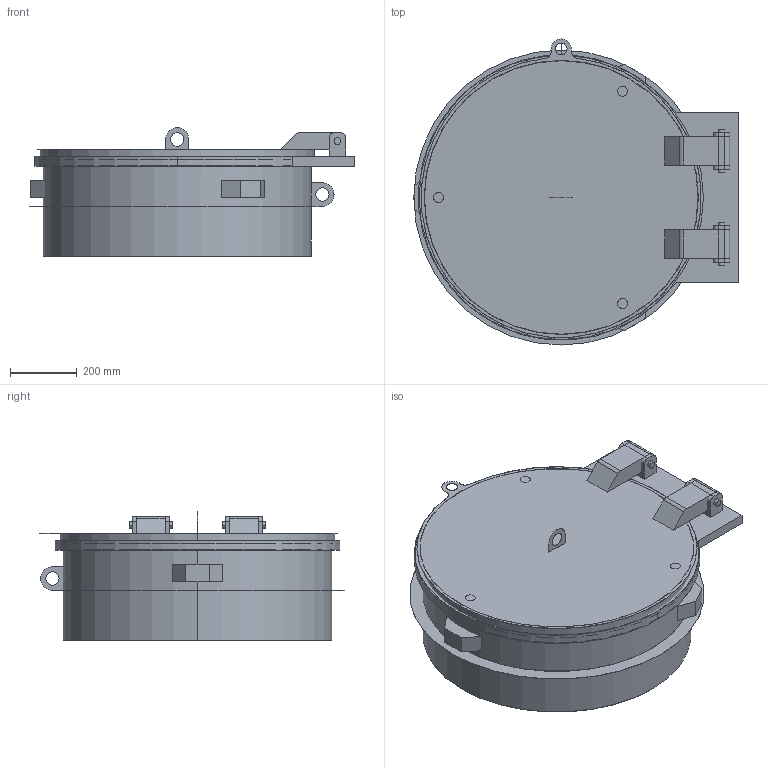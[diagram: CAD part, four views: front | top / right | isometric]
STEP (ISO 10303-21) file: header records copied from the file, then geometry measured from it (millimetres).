
FILE_DESCRIPTION((''),'2;1');
FILE_NAME('52471712','2025-10-30T08:36:01',('stat'),('HUBER SE'),'CREO PARAMETRIC BY PTC INC, 2022162','CREO PARAMETRIC BY PTC INC, 2022162','');
FILE_SCHEMA(('AUTOMOTIVE_DESIGN { 1 0 10303 214 1 1 1 1 }'));
Length unit declared in the file: millimetre
Products named in the file (1): 52471712
Bounding box: 972.5 x 917 x 385 mm (x, y, z)
Volume: 8972963.5 mm3; surface area: 3979624.1 mm2
Topology: 8 solids, 8 shells, 180 faces, 416 edges, 276 vertices
Faces by surface type: plane 110, cylinder 70
Entity records: 7191 total; most frequent: DIRECTION 930, CARTESIAN_POINT 874, ORIENTED_EDGE 832, PRESENTATION_STYLE_ASSIGNMENT 430, STYLED_ITEM 424, CURVE_STYLE 416, EDGE_CURVE 416, AXIS2_PLACEMENT_3D 334
